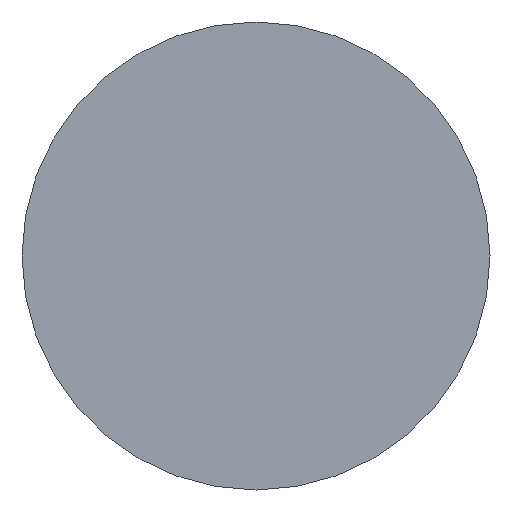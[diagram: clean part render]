
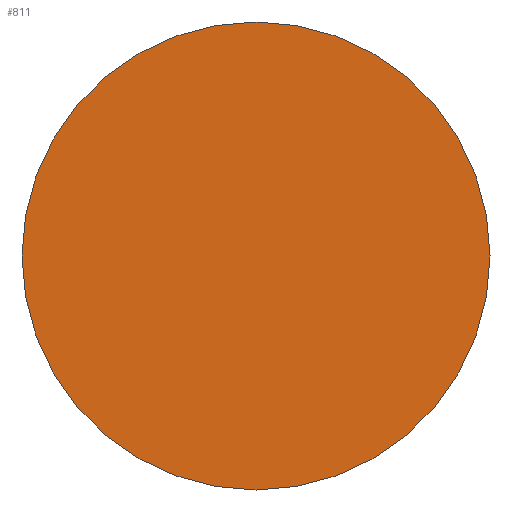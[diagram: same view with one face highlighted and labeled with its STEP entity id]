
A CAD part, left-side view. The second image highlights one B-rep face of the part: STEP entity #811.
In plain terms, the highlighted planar face has unit normal (-1, 0, 0).
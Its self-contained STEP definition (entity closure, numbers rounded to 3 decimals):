
#15 = DIRECTION ( 'NONE',  ( 1., 0., 0. ) ) ;
#83 = DIRECTION ( 'NONE',  ( 0., 0., -1. ) ) ;
#100 = DIRECTION ( 'NONE',  ( 0., 0., -1. ) ) ;
#104 = CARTESIAN_POINT ( 'NONE',  ( 0., 0., 0. ) ) ;
#213 = CARTESIAN_POINT ( 'NONE',  ( 0., 0., 0. ) ) ;
#298 = DIRECTION ( 'NONE',  ( 1., 0., 0. ) ) ;
#789 = CIRCLE ( 'NONE', #793, 19. ) ;
#793 = AXIS2_PLACEMENT_3D ( 'NONE', #104, #298, #83 ) ;
#811 = ADVANCED_FACE ( 'NONE', ( #1496 ), #1663, .T. ) ;
#889 = ORIENTED_EDGE ( 'NONE', *, *, #1720, .F. ) ;
#1083 = VERTEX_POINT ( 'NONE', #1684 ) ;
#1099 = EDGE_LOOP ( 'NONE', ( #889, #1164 ) ) ;
#1121 = VERTEX_POINT ( 'NONE', #1567 ) ;
#1164 = ORIENTED_EDGE ( 'NONE', *, *, #1696, .F. ) ;
#1496 = FACE_OUTER_BOUND ( 'NONE', #1099, .T. ) ;
#1529 = DIRECTION ( 'NONE',  ( 0., 0., 1. ) ) ;
#1567 = CARTESIAN_POINT ( 'NONE',  ( 0., 0., -19. ) ) ;
#1617 = DIRECTION ( 'NONE',  ( -1., 0., 0. ) ) ;
#1636 = CARTESIAN_POINT ( 'NONE',  ( 0., 19., 0. ) ) ;
#1663 = PLANE ( 'NONE',  #1962 ) ;
#1684 = CARTESIAN_POINT ( 'NONE',  ( 0., 0., 19. ) ) ;
#1696 = EDGE_CURVE ( 'NONE', #1083, #1121, #1947, .T. ) ;
#1720 = EDGE_CURVE ( 'NONE', #1121, #1083, #789, .T. ) ;
#1944 = AXIS2_PLACEMENT_3D ( 'NONE', #213, #15, #100 ) ;
#1947 = CIRCLE ( 'NONE', #1944, 19. ) ;
#1962 = AXIS2_PLACEMENT_3D ( 'NONE', #1636, #1617, #1529 ) ;
